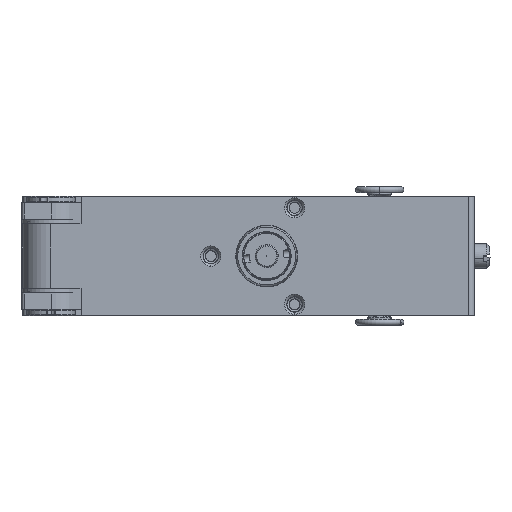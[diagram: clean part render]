
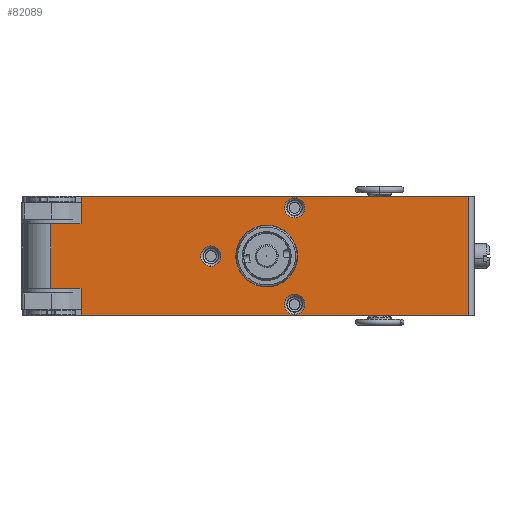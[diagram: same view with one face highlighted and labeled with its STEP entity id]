
A CAD part, front view. The second image highlights one B-rep face of the part: STEP entity #82089.
In plain terms, the highlighted planar face has unit normal (-0.002, -1, 0).
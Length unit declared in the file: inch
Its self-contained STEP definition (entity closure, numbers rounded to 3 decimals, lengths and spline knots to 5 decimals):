
#33 = CARTESIAN_POINT ( 'NONE',  ( -1.80158, 3.95742, 0.20786 ) ) ;
#173 = DIRECTION ( 'NONE',  ( -0.002, -1., 0. ) ) ;
#419 = AXIS2_PLACEMENT_3D ( 'NONE', #67141, #51907, #59361 ) ;
#1214 = EDGE_CURVE ( 'NONE', #68662, #50499, #15446, .T. ) ;
#1335 = EDGE_CURVE ( 'NONE', #44777, #90018, #84732, .T. ) ;
#2045 = LINE ( 'NONE', #35933, #42318 ) ;
#2558 = EDGE_CURVE ( 'NONE', #66160, #72845, #68928, .T. ) ;
#2591 = VECTOR ( 'NONE', #9114, 39.37008 ) ;
#3242 = CIRCLE ( 'NONE', #37272, 0.06496 ) ;
#3873 = EDGE_LOOP ( 'NONE', ( #18354, #22965 ) ) ;
#4143 = EDGE_CURVE ( 'NONE', #76748, #44714, #66570, .T. ) ;
#4486 = EDGE_LOOP ( 'NONE', ( #13112, #82914, #22450, #41981, #87525, #46973, #81592, #6286 ) ) ;
#4520 = ORIENTED_EDGE ( 'NONE', *, *, #58338, .F. ) ;
#5064 = DIRECTION ( 'NONE',  ( -0.002, -1., 0. ) ) ;
#5512 = CARTESIAN_POINT ( 'NONE',  ( 0.88558, 3.95161, 0.38386 ) ) ;
#6286 = ORIENTED_EDGE ( 'NONE', *, *, #88715, .F. ) ;
#6746 = EDGE_CURVE ( 'NONE', #72845, #59619, #73129, .T. ) ;
#6952 = VECTOR ( 'NONE', #26275, 39.37008 ) ;
#7787 = ORIENTED_EDGE ( 'NONE', *, *, #42735, .F. ) ;
#8029 = DIRECTION ( 'NONE',  ( 0., 0., -1. ) ) ;
#8212 = VERTEX_POINT ( 'NONE', #81572 ) ;
#8362 = FACE_BOUND ( 'NONE', #36827, .T. ) ;
#8363 = VECTOR ( 'NONE', #24033, 39.37008 ) ;
#8438 = DIRECTION ( 'NONE',  ( 0., 0., 1. ) ) ;
#9114 = DIRECTION ( 'NONE',  ( -1., 0.002, 0. ) ) ;
#10139 = EDGE_CURVE ( 'NONE', #72385, #56924, #27362, .T. ) ;
#10142 = EDGE_CURVE ( 'NONE', #82011, #71147, #65442, .T. ) ;
#10504 = CARTESIAN_POINT ( 'NONE',  ( -1.60847, 3.95701, -0.20786 ) ) ;
#10997 = AXIS2_PLACEMENT_3D ( 'NONE', #76295, #5064, #77215 ) ;
#11654 = CARTESIAN_POINT ( 'NONE',  ( -0.41363, 3.95442, 0. ) ) ;
#11882 = VECTOR ( 'NONE', #86598, 39.37008 ) ;
#12610 = AXIS2_PLACEMENT_3D ( 'NONE', #26443, #17998, #89838 ) ;
#13112 = ORIENTED_EDGE ( 'NONE', *, *, #10139, .T. ) ;
#13246 = CIRCLE ( 'NONE', #419, 0.06496 ) ;
#14145 = CARTESIAN_POINT ( 'NONE',  ( -0.41363, 3.95442, -0.19882 ) ) ;
#15398 = CARTESIAN_POINT ( 'NONE',  ( -0.17741, 3.95391, -0.20786 ) ) ;
#15446 = CIRCLE ( 'NONE', #12610, 0.19882 ) ;
#15480 = CARTESIAN_POINT ( 'NONE',  ( -1.80158, 3.95742, -0.20786 ) ) ;
#17957 = CARTESIAN_POINT ( 'NONE',  ( -0.17741, 3.95391, 0. ) ) ;
#17998 = DIRECTION ( 'NONE',  ( 0.002, 1., 0. ) ) ;
#18354 = ORIENTED_EDGE ( 'NONE', *, *, #4143, .F. ) ;
#21663 = CARTESIAN_POINT ( 'NONE',  ( -0.23413, 3.95403, 0.24594 ) ) ;
#21771 = FACE_OUTER_BOUND ( 'NONE', #4486, .T. ) ;
#21783 = EDGE_CURVE ( 'NONE', #50499, #68662, #40483, .T. ) ;
#22450 = ORIENTED_EDGE ( 'NONE', *, *, #2558, .T. ) ;
#22965 = ORIENTED_EDGE ( 'NONE', *, *, #23143, .F. ) ;
#23143 = EDGE_CURVE ( 'NONE', #44714, #76748, #44822, .T. ) ;
#24033 = DIRECTION ( 'NONE',  ( -1., 0.002, 0. ) ) ;
#25515 = DIRECTION ( 'NONE',  ( -0.002, -1., 0. ) ) ;
#26275 = DIRECTION ( 'NONE',  ( 0., 0., -1. ) ) ;
#26391 = EDGE_CURVE ( 'NONE', #8212, #36855, #3242, .T. ) ;
#26443 = CARTESIAN_POINT ( 'NONE',  ( -0.41363, 3.95442, 0. ) ) ;
#27362 = LINE ( 'NONE', #59723, #8363 ) ;
#27821 = VECTOR ( 'NONE', #66320, 39.37008 ) ;
#28519 = FACE_BOUND ( 'NONE', #60543, .T. ) ;
#29137 = CIRCLE ( 'NONE', #10997, 0.06496 ) ;
#30026 = CARTESIAN_POINT ( 'NONE',  ( -0.41363, 3.95442, 0.19882 ) ) ;
#32143 = CARTESIAN_POINT ( 'NONE',  ( -1.60847, 3.95701, 0.38386 ) ) ;
#33446 = EDGE_CURVE ( 'NONE', #82011, #59619, #45147, .T. ) ;
#35933 = CARTESIAN_POINT ( 'NONE',  ( -1.60847, 3.95701, 0. ) ) ;
#36827 = EDGE_LOOP ( 'NONE', ( #41923, #4520 ) ) ;
#36855 = VERTEX_POINT ( 'NONE', #58227 ) ;
#37272 = AXIS2_PLACEMENT_3D ( 'NONE', #48282, #41349, #62651 ) ;
#37843 = CARTESIAN_POINT ( 'NONE',  ( -1.98367, 3.95782, 0.38386 ) ) ;
#38704 = CARTESIAN_POINT ( 'NONE',  ( -1.60847, 3.95701, -0.38386 ) ) ;
#40104 = DIRECTION ( 'NONE',  ( 0.002, 1., 0. ) ) ;
#40483 = CIRCLE ( 'NONE', #81970, 0.19882 ) ;
#40697 = DIRECTION ( 'NONE',  ( 0., 0., -1. ) ) ;
#41349 = DIRECTION ( 'NONE',  ( -0.002, -1., 0. ) ) ;
#41923 = ORIENTED_EDGE ( 'NONE', *, *, #1335, .F. ) ;
#41981 = ORIENTED_EDGE ( 'NONE', *, *, #6746, .T. ) ;
#42318 = VECTOR ( 'NONE', #8438, 39.37008 ) ;
#42733 = LINE ( 'NONE', #61324, #6952 ) ;
#42735 = EDGE_CURVE ( 'NONE', #36855, #8212, #13246, .T. ) ;
#44181 = ORIENTED_EDGE ( 'NONE', *, *, #1214, .T. ) ;
#44391 = CARTESIAN_POINT ( 'NONE',  ( -0.23413, 3.95403, -0.37586 ) ) ;
#44714 = VERTEX_POINT ( 'NONE', #51970 ) ;
#44777 = VERTEX_POINT ( 'NONE', #44391 ) ;
#44822 = CIRCLE ( 'NONE', #61648, 0.06496 ) ;
#44911 = CARTESIAN_POINT ( 'NONE',  ( 0.88558, 3.95161, -0.38386 ) ) ;
#45147 = LINE ( 'NONE', #80952, #2591 ) ;
#45330 = DIRECTION ( 'NONE',  ( 0., 0., 1. ) ) ;
#45790 = DIRECTION ( 'NONE',  ( 0., 0., -1. ) ) ;
#46751 = DIRECTION ( 'NONE',  ( -0.002, -1., 0. ) ) ;
#46973 = ORIENTED_EDGE ( 'NONE', *, *, #10142, .T. ) ;
#48282 = CARTESIAN_POINT ( 'NONE',  ( -0.77263, 3.9552, 0. ) ) ;
#50161 = EDGE_CURVE ( 'NONE', #56924, #66160, #42733, .T. ) ;
#50499 = VERTEX_POINT ( 'NONE', #30026 ) ;
#51907 = DIRECTION ( 'NONE',  ( -0.002, -1., 0. ) ) ;
#51970 = CARTESIAN_POINT ( 'NONE',  ( -0.23413, 3.95403, 0.37586 ) ) ;
#56924 = VERTEX_POINT ( 'NONE', #33 ) ;
#58032 = CARTESIAN_POINT ( 'NONE',  ( -1.60847, 3.95701, 0. ) ) ;
#58227 = CARTESIAN_POINT ( 'NONE',  ( -0.77263, 3.9552, 0.06496 ) ) ;
#58338 = EDGE_CURVE ( 'NONE', #90018, #44777, #29137, .T. ) ;
#59361 = DIRECTION ( 'NONE',  ( 0., 0., -1. ) ) ;
#59619 = VERTEX_POINT ( 'NONE', #38704 ) ;
#59723 = CARTESIAN_POINT ( 'NONE',  ( -0.17741, 3.95391, 0.20786 ) ) ;
#60543 = EDGE_LOOP ( 'NONE', ( #66663, #44181 ) ) ;
#61324 = CARTESIAN_POINT ( 'NONE',  ( -1.80158, 3.95742, -0.20786 ) ) ;
#61448 = AXIS2_PLACEMENT_3D ( 'NONE', #17957, #46751, #67691 ) ;
#61648 = AXIS2_PLACEMENT_3D ( 'NONE', #86411, #173, #8029 ) ;
#62651 = DIRECTION ( 'NONE',  ( 0., 0., -1. ) ) ;
#63188 = FACE_BOUND ( 'NONE', #85604, .T. ) ;
#65442 = LINE ( 'NONE', #81222, #89899 ) ;
#66160 = VERTEX_POINT ( 'NONE', #15480 ) ;
#66320 = DIRECTION ( 'NONE',  ( 1., -0.002, 0. ) ) ;
#66570 = CIRCLE ( 'NONE', #70792, 0.06496 ) ;
#66663 = ORIENTED_EDGE ( 'NONE', *, *, #21783, .T. ) ;
#67141 = CARTESIAN_POINT ( 'NONE',  ( -0.77263, 3.9552, 0. ) ) ;
#67477 = VECTOR ( 'NONE', #45790, 39.37008 ) ;
#67691 = DIRECTION ( 'NONE',  ( 0., 0., -1. ) ) ;
#68662 = VERTEX_POINT ( 'NONE', #14145 ) ;
#68921 = CARTESIAN_POINT ( 'NONE',  ( -0.23413, 3.95403, 0.3109 ) ) ;
#68928 = LINE ( 'NONE', #15398, #11882 ) ;
#70792 = AXIS2_PLACEMENT_3D ( 'NONE', #68921, #82618, #76077 ) ;
#71147 = VERTEX_POINT ( 'NONE', #5512 ) ;
#72385 = VERTEX_POINT ( 'NONE', #91781 ) ;
#72737 = CARTESIAN_POINT ( 'NONE',  ( -0.23413, 3.95403, -0.24594 ) ) ;
#72845 = VERTEX_POINT ( 'NONE', #10504 ) ;
#73129 = LINE ( 'NONE', #58032, #67477 ) ;
#73143 = AXIS2_PLACEMENT_3D ( 'NONE', #82364, #25515, #90149 ) ;
#73995 = VERTEX_POINT ( 'NONE', #32143 ) ;
#75764 = PLANE ( 'NONE',  #61448 ) ;
#75876 = LINE ( 'NONE', #37843, #27821 ) ;
#76077 = DIRECTION ( 'NONE',  ( 0., 0., -1. ) ) ;
#76295 = CARTESIAN_POINT ( 'NONE',  ( -0.23413, 3.95403, -0.3109 ) ) ;
#76748 = VERTEX_POINT ( 'NONE', #21663 ) ;
#77215 = DIRECTION ( 'NONE',  ( 0., 0., -1. ) ) ;
#77229 = EDGE_CURVE ( 'NONE', #73995, #71147, #75876, .T. ) ;
#80952 = CARTESIAN_POINT ( 'NONE',  ( -1.98367, 3.95782, -0.38386 ) ) ;
#81059 = FACE_BOUND ( 'NONE', #3873, .T. ) ;
#81222 = CARTESIAN_POINT ( 'NONE',  ( 0.88558, 3.95161, 0.38386 ) ) ;
#81251 = ORIENTED_EDGE ( 'NONE', *, *, #26391, .F. ) ;
#81572 = CARTESIAN_POINT ( 'NONE',  ( -0.77263, 3.9552, -0.06496 ) ) ;
#81592 = ORIENTED_EDGE ( 'NONE', *, *, #77229, .F. ) ;
#81970 = AXIS2_PLACEMENT_3D ( 'NONE', #11654, #40104, #40697 ) ;
#82011 = VERTEX_POINT ( 'NONE', #44911 ) ;
#82089 = ADVANCED_FACE ( 'NONE', ( #63188, #81059, #8362, #28519, #21771 ), #75764, .T. ) ;
#82364 = CARTESIAN_POINT ( 'NONE',  ( -0.23413, 3.95403, -0.3109 ) ) ;
#82618 = DIRECTION ( 'NONE',  ( -0.002, -1., 0. ) ) ;
#82914 = ORIENTED_EDGE ( 'NONE', *, *, #50161, .T. ) ;
#84732 = CIRCLE ( 'NONE', #73143, 0.06496 ) ;
#85604 = EDGE_LOOP ( 'NONE', ( #81251, #7787 ) ) ;
#86411 = CARTESIAN_POINT ( 'NONE',  ( -0.23413, 3.95403, 0.3109 ) ) ;
#86598 = DIRECTION ( 'NONE',  ( 1., -0.002, 0. ) ) ;
#87525 = ORIENTED_EDGE ( 'NONE', *, *, #33446, .F. ) ;
#88715 = EDGE_CURVE ( 'NONE', #72385, #73995, #2045, .T. ) ;
#89838 = DIRECTION ( 'NONE',  ( 0., 0., -1. ) ) ;
#89899 = VECTOR ( 'NONE', #45330, 39.37008 ) ;
#90018 = VERTEX_POINT ( 'NONE', #72737 ) ;
#90149 = DIRECTION ( 'NONE',  ( 0., 0., -1. ) ) ;
#91781 = CARTESIAN_POINT ( 'NONE',  ( -1.60847, 3.95701, 0.20786 ) ) ;
